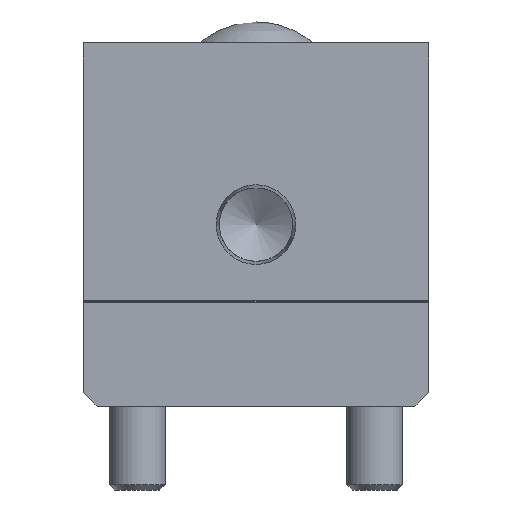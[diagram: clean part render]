
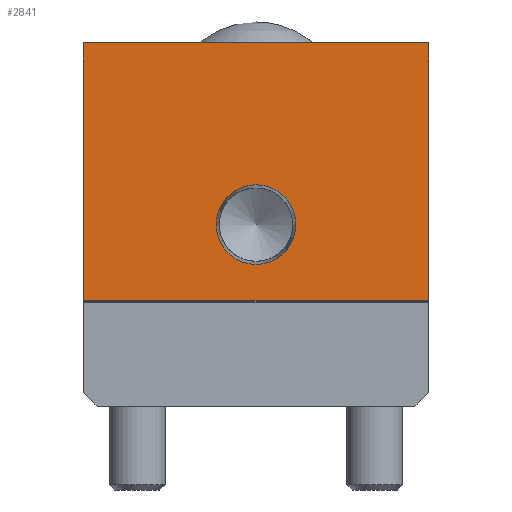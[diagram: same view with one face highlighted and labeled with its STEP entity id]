
A CAD part, front view. The second image highlights one B-rep face of the part: STEP entity #2841.
In plain terms, the highlighted planar face has unit normal (0, -1, 0).
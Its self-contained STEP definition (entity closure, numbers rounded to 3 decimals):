
#155=FACE_BOUND('',#614,.T.);
#234=CIRCLE('',#3025,5.704);
#400=FACE_OUTER_BOUND('',#613,.T.);
#613=EDGE_LOOP('',(#2070,#2071,#2072,#2073));
#614=EDGE_LOOP('',(#2074));
#887=LINE('',#4243,#1105);
#890=LINE('',#4248,#1108);
#892=LINE('',#4256,#1110);
#906=LINE('',#4292,#1124);
#1105=VECTOR('',#3429,36.9);
#1108=VECTOR('',#3434,49.5);
#1110=VECTOR('',#3442,36.9);
#1124=VECTOR('',#3486,49.5);
#1306=VERTEX_POINT('',#4240);
#1307=VERTEX_POINT('',#4242);
#1308=VERTEX_POINT('',#4246);
#1311=VERTEX_POINT('',#4254);
#1315=VERTEX_POINT('',#4268);
#1576=EDGE_CURVE('',#1307,#1306,#887,.T.);
#1579=EDGE_CURVE('',#1306,#1308,#890,.T.);
#1583=EDGE_CURVE('',#1311,#1308,#892,.T.);
#1588=EDGE_CURVE('',#1315,#1315,#234,.T.);
#1601=EDGE_CURVE('',#1311,#1307,#906,.T.);
#2070=ORIENTED_EDGE('',*,*,#1601,.T.);
#2071=ORIENTED_EDGE('',*,*,#1576,.T.);
#2072=ORIENTED_EDGE('',*,*,#1579,.T.);
#2073=ORIENTED_EDGE('',*,*,#1583,.F.);
#2074=ORIENTED_EDGE('',*,*,#1588,.T.);
#2561=PLANE('',#3058);
#2841=ADVANCED_FACE('',(#400,#155),#2561,.T.);
#3025=AXIS2_PLACEMENT_3D('',#4269,#3457,#3458);
#3058=AXIS2_PLACEMENT_3D('',#4330,#3540,#3541);
#3429=DIRECTION('',(0.,0.,1.));
#3434=DIRECTION('',(-1.,0.,0.));
#3442=DIRECTION('',(0.,0.,1.));
#3457=DIRECTION('center_axis',(0.,1.,0.));
#3458=DIRECTION('ref_axis',(1.,0.,0.));
#3486=DIRECTION('',(1.,0.,0.));
#3540=DIRECTION('center_axis',(0.,-1.,0.));
#3541=DIRECTION('ref_axis',(0.,0.,-1.));
#4240=CARTESIAN_POINT('',(24.75,0.,52.));
#4242=CARTESIAN_POINT('',(24.75,0.,15.1));
#4243=CARTESIAN_POINT('',(24.75,0.,0.));
#4246=CARTESIAN_POINT('',(-24.75,0.,52.));
#4248=CARTESIAN_POINT('',(24.75,0.,52.));
#4254=CARTESIAN_POINT('',(-24.75,0.,15.1));
#4256=CARTESIAN_POINT('',(-24.75,0.,0.));
#4268=CARTESIAN_POINT('',(5.704,0.,26.));
#4269=CARTESIAN_POINT('Origin',(0.,0.,26.));
#4292=CARTESIAN_POINT('',(24.75,0.,15.1));
#4330=CARTESIAN_POINT('Origin',(24.75,0.,0.));
